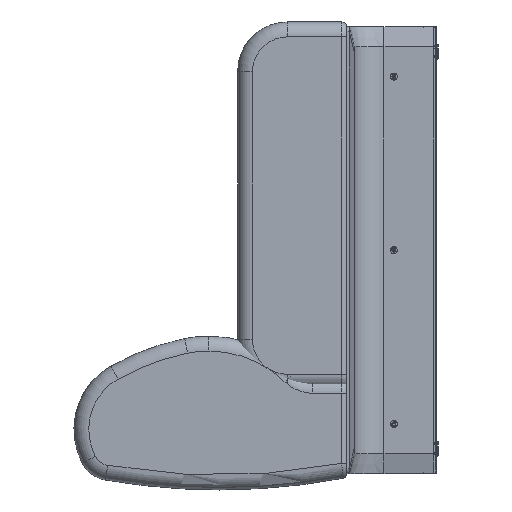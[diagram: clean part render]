
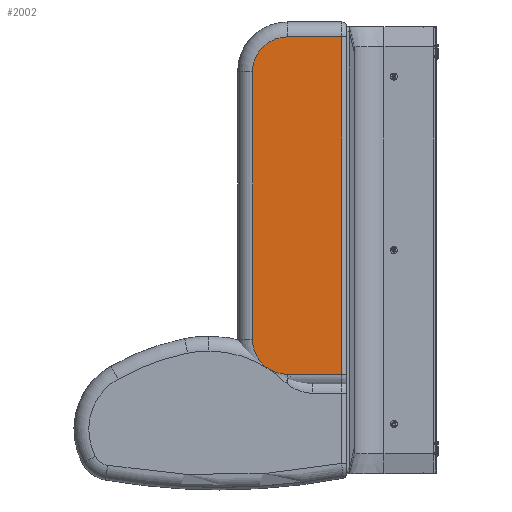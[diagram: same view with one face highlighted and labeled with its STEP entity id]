
A CAD part, left-side view. The second image highlights one B-rep face of the part: STEP entity #2002.
In plain terms, the highlighted planar face has unit normal (-1, 0, 0).
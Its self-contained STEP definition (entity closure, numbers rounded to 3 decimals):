
#143 = CARTESIAN_POINT ( 'NONE',  ( -690., 120., -630. ) ) ;
#467 = CARTESIAN_POINT ( 'NONE',  ( -690., 10., -700. ) ) ;
#480 = CARTESIAN_POINT ( 'NONE',  ( -690., 220., 10. ) ) ;
#558 = VERTEX_POINT ( 'NONE', #3776 ) ;
#566 = VECTOR ( 'NONE', #8530, 1000. ) ;
#774 = EDGE_CURVE ( 'NONE', #558, #1770, #5075, .T. ) ;
#801 = AXIS2_PLACEMENT_3D ( 'NONE', #480, #4272, #6311 ) ;
#1064 = CARTESIAN_POINT ( 'NONE',  ( -690., 120., -90. ) ) ;
#1671 = ORIENTED_EDGE ( 'NONE', *, *, #1702, .T. ) ;
#1702 = EDGE_CURVE ( 'NONE', #5206, #3990, #2164, .T. ) ;
#1770 = VERTEX_POINT ( 'NONE', #6075 ) ;
#2002 = ADVANCED_FACE ( 'NONE', ( #4127 ), #5646, .F. ) ;
#2144 = ORIENTED_EDGE ( 'NONE', *, *, #2672, .T. ) ;
#2164 = CIRCLE ( 'NONE', #8078, 70. ) ;
#2273 = VECTOR ( 'NONE', #3888, 1000. ) ;
#2448 = LINE ( 'NONE', #4979, #6184 ) ;
#2631 = VERTEX_POINT ( 'NONE', #4879 ) ;
#2672 = EDGE_CURVE ( 'NONE', #3990, #8909, #5393, .T. ) ;
#3069 = DIRECTION ( 'NONE',  ( 0., 0., -1. ) ) ;
#3196 = DIRECTION ( 'NONE',  ( 0., -1., 0. ) ) ;
#3649 = DIRECTION ( 'NONE',  ( -1., 0., 0. ) ) ;
#3776 = CARTESIAN_POINT ( 'NONE',  ( -690., 120., -20. ) ) ;
#3888 = DIRECTION ( 'NONE',  ( 0., 1., 0. ) ) ;
#3990 = VERTEX_POINT ( 'NONE', #4211 ) ;
#4127 = FACE_OUTER_BOUND ( 'NONE', #7988, .T. ) ;
#4211 = CARTESIAN_POINT ( 'NONE',  ( -690., 120., -700. ) ) ;
#4272 = DIRECTION ( 'NONE',  ( 1., 0., 0. ) ) ;
#4352 = ORIENTED_EDGE ( 'NONE', *, *, #774, .T. ) ;
#4482 = VECTOR ( 'NONE', #3196, 1000. ) ;
#4570 = CARTESIAN_POINT ( 'NONE',  ( -690., 220., -20. ) ) ;
#4797 = AXIS2_PLACEMENT_3D ( 'NONE', #1064, #6215, #8145 ) ;
#4879 = CARTESIAN_POINT ( 'NONE',  ( -690., 10., -20. ) ) ;
#4979 = CARTESIAN_POINT ( 'NONE',  ( -690., 10., -20. ) ) ;
#5075 = CIRCLE ( 'NONE', #4797, 70. ) ;
#5206 = VERTEX_POINT ( 'NONE', #6017 ) ;
#5258 = ORIENTED_EDGE ( 'NONE', *, *, #8437, .T. ) ;
#5314 = EDGE_CURVE ( 'NONE', #8909, #2631, #2448, .T. ) ;
#5372 = ORIENTED_EDGE ( 'NONE', *, *, #7276, .T. ) ;
#5393 = LINE ( 'NONE', #7695, #4482 ) ;
#5646 = PLANE ( 'NONE',  #801 ) ;
#6017 = CARTESIAN_POINT ( 'NONE',  ( -690., 190., -630. ) ) ;
#6075 = CARTESIAN_POINT ( 'NONE',  ( -690., 190., -90. ) ) ;
#6184 = VECTOR ( 'NONE', #8464, 1000. ) ;
#6215 = DIRECTION ( 'NONE',  ( -1., 0., 0. ) ) ;
#6311 = DIRECTION ( 'NONE',  ( 0., 0., -1. ) ) ;
#6366 = LINE ( 'NONE', #6458, #566 ) ;
#6458 = CARTESIAN_POINT ( 'NONE',  ( -690., 190., 10. ) ) ;
#7233 = ORIENTED_EDGE ( 'NONE', *, *, #5314, .T. ) ;
#7276 = EDGE_CURVE ( 'NONE', #2631, #558, #8816, .T. ) ;
#7695 = CARTESIAN_POINT ( 'NONE',  ( -690., 220., -700. ) ) ;
#7988 = EDGE_LOOP ( 'NONE', ( #2144, #7233, #5372, #4352, #5258, #1671 ) ) ;
#8078 = AXIS2_PLACEMENT_3D ( 'NONE', #143, #3649, #3069 ) ;
#8145 = DIRECTION ( 'NONE',  ( 0., 0., -1. ) ) ;
#8437 = EDGE_CURVE ( 'NONE', #1770, #5206, #6366, .T. ) ;
#8464 = DIRECTION ( 'NONE',  ( 0., 0., 1. ) ) ;
#8530 = DIRECTION ( 'NONE',  ( 0., 0., -1. ) ) ;
#8816 = LINE ( 'NONE', #4570, #2273 ) ;
#8909 = VERTEX_POINT ( 'NONE', #467 ) ;
